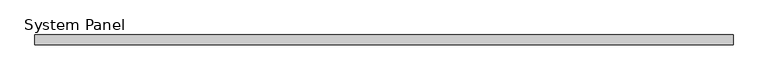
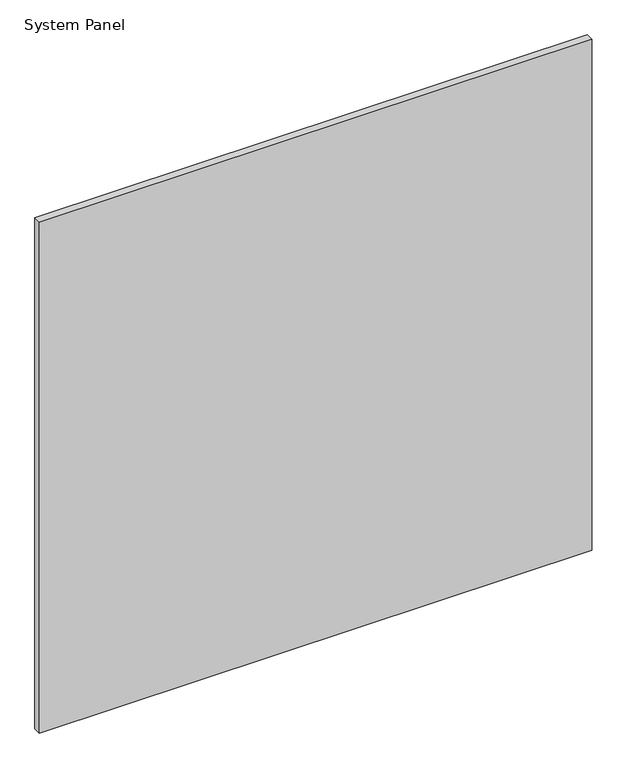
"""IFC4 building model written with IfcOpenShell, lengths in millimetres: plate geometry, System Panel : Panel_Glazed_Generic Showcase_30mm."""

from ifc_helpers import new_model, si_unit, origin, origin_with_axes, place, context, project, spatial, polyline, outline, extrude, source, transform, mapped, element, save


def system_panel_211c9268(model_context):
    return source(origin(), model_context, "Body", "SweptSolid", [
        extrude(outline(polyline([(1048.0030369, -30.0), (-1048.0030369, -30.0), (-1048.0030369, 0.0), (1048.0030369, 0.0), (1048.0030369, -30.0)])), origin_with_axes(), (0.0, 0.0, 1.0), 2050.0),
    ])


if __name__ == "__main__":
    model = new_model("IFC4")
    model_context = context("Model", 3, world=origin())
    ifc_project = project(units=[si_unit("LENGTHUNIT", "METRE", prefix="MILLI")], contexts=[model_context])
    site = spatial("IfcSite", under=ifc_project)
    building = spatial("IfcBuilding", under=site)
    placement = place(None, origin())
    system_panel_shape = system_panel_211c9268(model_context)
    element("IfcPlate", 1, ObjectType="System Panel : Panel_Glazed_Generic Showcase_30mm", at=placement, inside=building, context=model_context, shape_type="MappedRepresentation", body=[
        mapped(system_panel_shape, transform((0.0, 0.0, 0.0), x_axis=(1.0, 0.0, 0.0), y_axis=(0.0, 1.0, 0.0), z_axis=(0.0, 0.0, 1.0))),
    ])
    save(model, "model.ifc")
